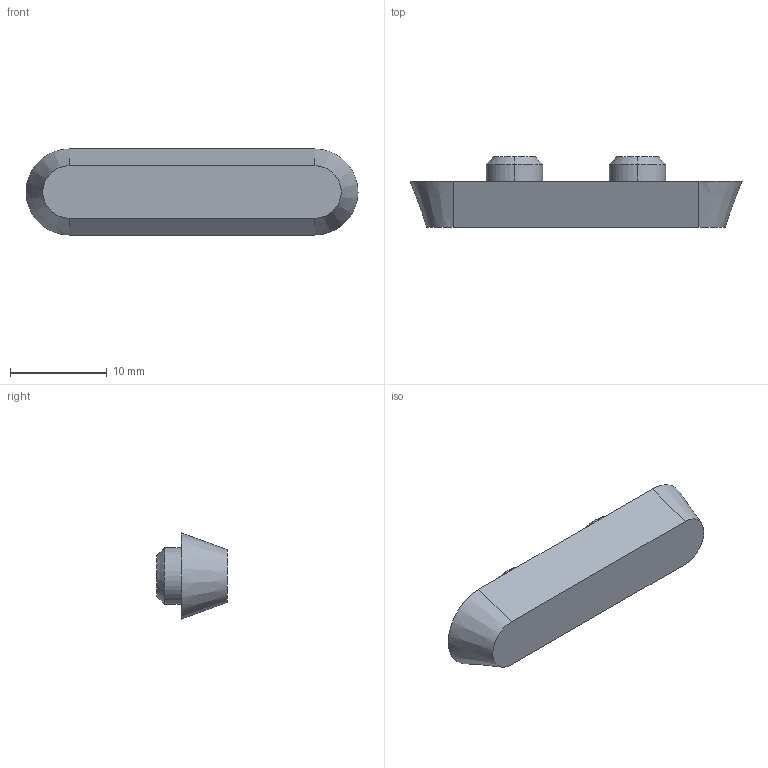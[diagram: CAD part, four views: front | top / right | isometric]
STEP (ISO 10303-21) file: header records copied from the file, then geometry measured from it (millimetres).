
FILE_DESCRIPTION (( 'STEP AP214' ), '1' );
FILE_NAME ('15 - Base Foot (Quantity 5).STEP', '2022-11-25T05:48:52', ( '' ), ( '' ), 'SwSTEP 2.0', 'SolidWorks 2021', '' );
FILE_SCHEMA (( 'AUTOMOTIVE_DESIGN' ));
Length unit declared in the file: inch
Products named in the file (1): 15 - Base Foot (Quantity 5)
Bounding box: 34.29 x 7.3 x 8.89 mm (x, y, z)
Volume: 1186.7 mm3; surface area: 894.7 mm2
Topology: 1 solids, 1 shells, 16 faces, 32 edges, 20 vertices
Faces by surface type: cone 6, plane 6, cylinder 4
Entity records: 460 total; most frequent: DIRECTION 82, CARTESIAN_POINT 69, ORIENTED_EDGE 64, AXIS2_PLACEMENT_3D 33, EDGE_CURVE 32, VERTEX_POINT 20, EDGE_LOOP 18, LINE 16
